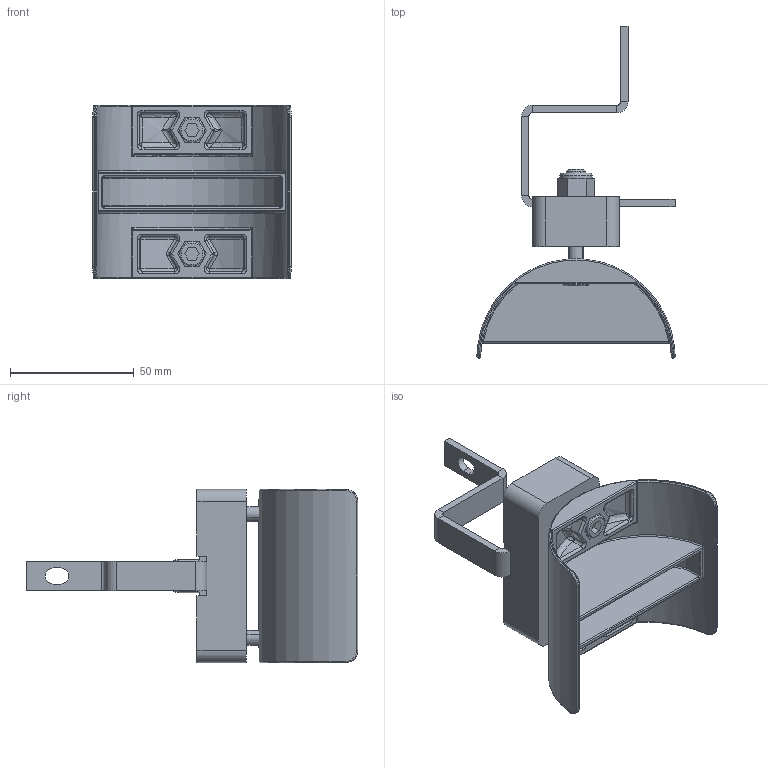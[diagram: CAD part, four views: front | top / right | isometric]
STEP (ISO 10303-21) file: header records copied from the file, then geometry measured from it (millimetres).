
FILE_DESCRIPTION (( 'STEP AP203' ), '1' );
FILE_NAME ('900.200.303.STEP', '2018-02-27T08:04:21', ( '' ), ( '' ), 'SwSTEP 2.0', 'SolidWorks 2016', '' );
FILE_SCHEMA (( 'CONFIG_CONTROL_DESIGN' ));
Length unit declared in the file: millimetre
Products named in the file (7): VITI TSEI UNI 5933_M8x30 UNI 5933; 900.200.303; 900.200.012; 900.200.011; VITI TCEI UNI 5931_M6x30 UNI 5931; 900.200.303-L; DADI ESAGONALI AUTOBLOCCANTI UNI 7473_M8 UNI 7473
Assembly tree (7 placements, depth 2):
  900.200.303
    900.200.303-L
    DADI ESAGONALI AUTOBLOCCANTI UNI 7473_M8 UNI 7473
    900.200.012
    VITI TSEI UNI 5933_M8x30 UNI 5933
    900.200.011
    VITI TCEI UNI 5931_M6x30 UNI 5931  x2
Bounding box: 80 x 134 x 70 mm (x, y, z)
Volume: 81778.5 mm3; surface area: 46398.7 mm2
Topology: 7 solids, 7 shells, 396 faces, 905 edges, 514 vertices
Faces by surface type: plane 128, cylinder 124, bspline 60, torus 46, cone 22, sphere 16
Entity records: 13826 total; most frequent: CARTESIAN_POINT 5033, DIRECTION 1679, ORIENTED_EDGE 1678, EDGE_CURVE 839, AXIS2_PLACEMENT_3D 660, VERTEX_POINT 484, EDGE_LOOP 407, FACE_OUTER_BOUND 378
